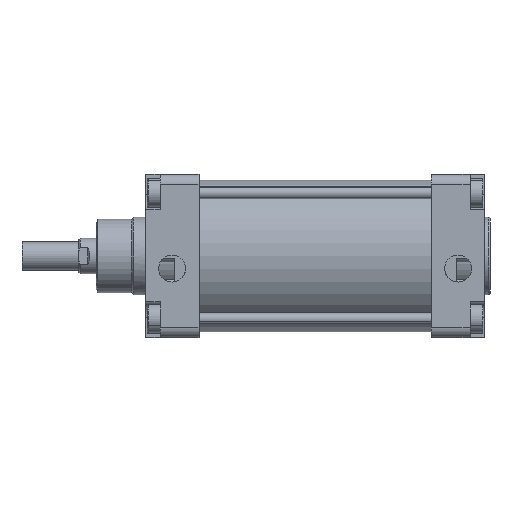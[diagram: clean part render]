
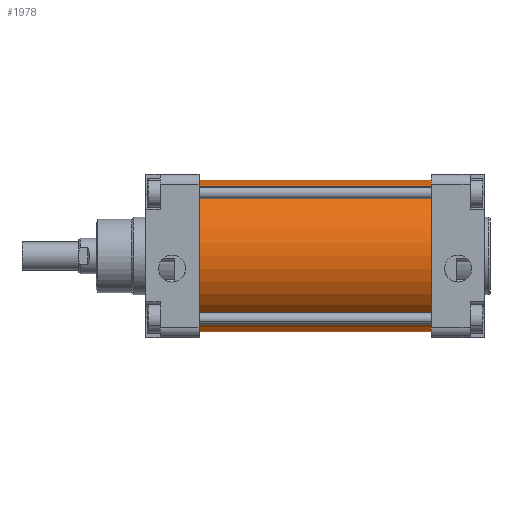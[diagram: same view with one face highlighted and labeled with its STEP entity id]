
A CAD part, top view. The second image highlights one B-rep face of the part: STEP entity #1978.
In plain terms, the highlighted cylindrical face has radius 53.5 mm (diameter 107 mm), a partial arc.
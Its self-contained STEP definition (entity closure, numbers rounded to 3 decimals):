
#1682=CARTESIAN_POINT('Axis2P3D Location',(0.,0.,0.)) ;
#1686=CARTESIAN_POINT('Vertex',(0.,53.5,0.)) ;
#1688=CARTESIAN_POINT('Vertex',(0.,-53.5,0.)) ;
#1948=CARTESIAN_POINT('Axis2P3D Location',(82.,0.,0.)) ;
#1953=CARTESIAN_POINT('Line Origine',(82.,53.5,0.)) ;
#1957=CARTESIAN_POINT('Vertex',(164.,53.5,0.)) ;
#1960=CARTESIAN_POINT('Line Origine',(82.,-53.5,0.)) ;
#1964=CARTESIAN_POINT('Vertex',(164.,-53.5,0.)) ;
#1967=CARTESIAN_POINT('Axis2P3D Location',(164.,0.,0.)) ;
#1683=DIRECTION('Axis2P3D Direction',(1.,0.,0.)) ;
#1949=DIRECTION('Axis2P3D Direction',(1.,0.,0.)) ;
#1950=DIRECTION('Axis2P3D XDirection',(0.,1.,0.)) ;
#1954=DIRECTION('Vector Direction',(1.,0.,0.)) ;
#1961=DIRECTION('Vector Direction',(1.,0.,0.)) ;
#1968=DIRECTION('Axis2P3D Direction',(1.,0.,0.)) ;
#1684=AXIS2_PLACEMENT_3D('Circle Axis2P3D',#1682,#1683,$) ;
#1951=AXIS2_PLACEMENT_3D('Cylinder Axis2P3D',#1948,#1949,#1950) ;
#1969=AXIS2_PLACEMENT_3D('Circle Axis2P3D',#1967,#1968,$) ;
#1973=ORIENTED_EDGE('',*,*,#1959,.F.) ;
#1974=ORIENTED_EDGE('',*,*,#1690,.T.) ;
#1975=ORIENTED_EDGE('',*,*,#1966,.T.) ;
#1976=ORIENTED_EDGE('',*,*,#1971,.F.) ;
#1955=VECTOR('Line Direction',#1954,1.) ;
#1962=VECTOR('Line Direction',#1961,1.) ;
#1978=ADVANCED_FACE('PartBody',(#1977),#1952,.T.) ;
#1685=CIRCLE('generated circle',#1684,53.5) ;
#1970=CIRCLE('generated circle',#1969,53.5) ;
#1952=CYLINDRICAL_SURFACE('generated cylinder',#1951,53.5) ;
#1690=EDGE_CURVE('',#1687,#1689,#1685,.T.) ;
#1959=EDGE_CURVE('',#1687,#1958,#1956,.T.) ;
#1966=EDGE_CURVE('',#1689,#1965,#1963,.T.) ;
#1971=EDGE_CURVE('',#1958,#1965,#1970,.T.) ;
#1972=EDGE_LOOP('',(#1973,#1974,#1975,#1976)) ;
#1977=FACE_OUTER_BOUND('',#1972,.T.) ;
#1956=LINE('Line',#1953,#1955) ;
#1963=LINE('Line',#1960,#1962) ;
#1687=VERTEX_POINT('',#1686) ;
#1689=VERTEX_POINT('',#1688) ;
#1958=VERTEX_POINT('',#1957) ;
#1965=VERTEX_POINT('',#1964) ;
